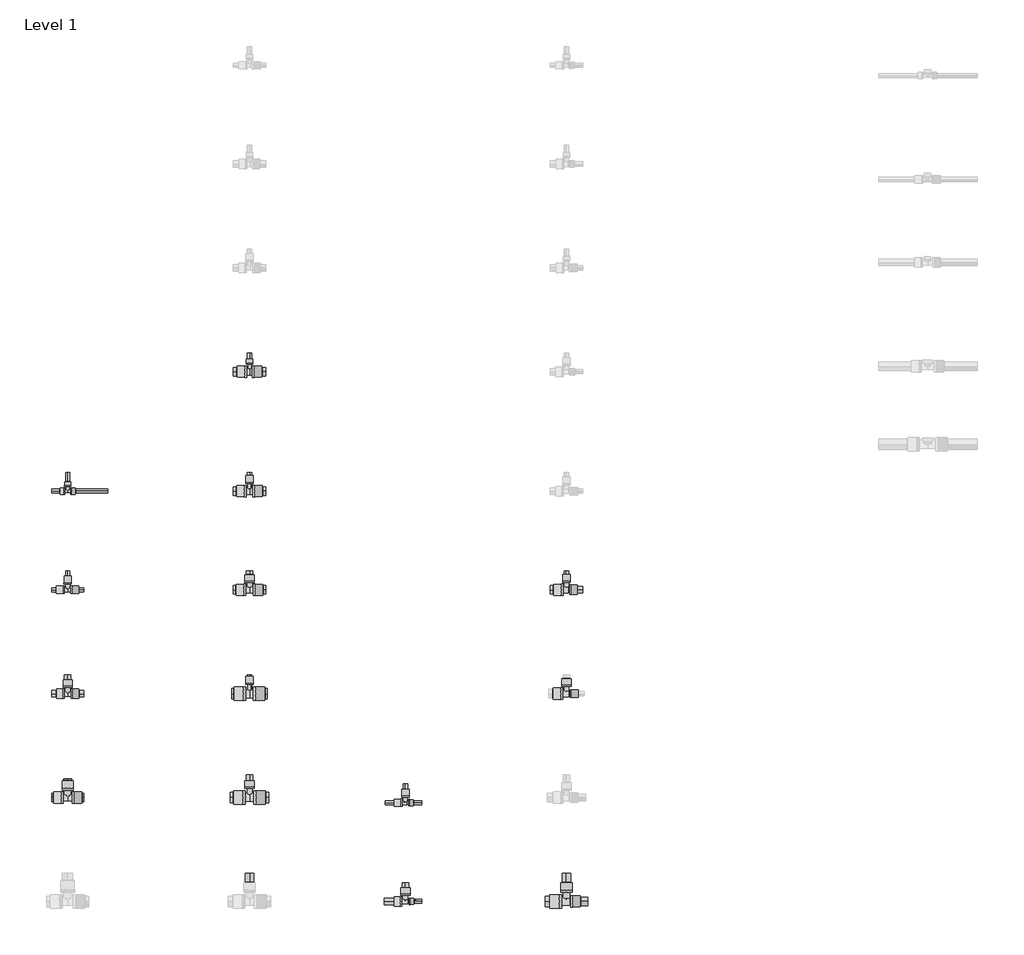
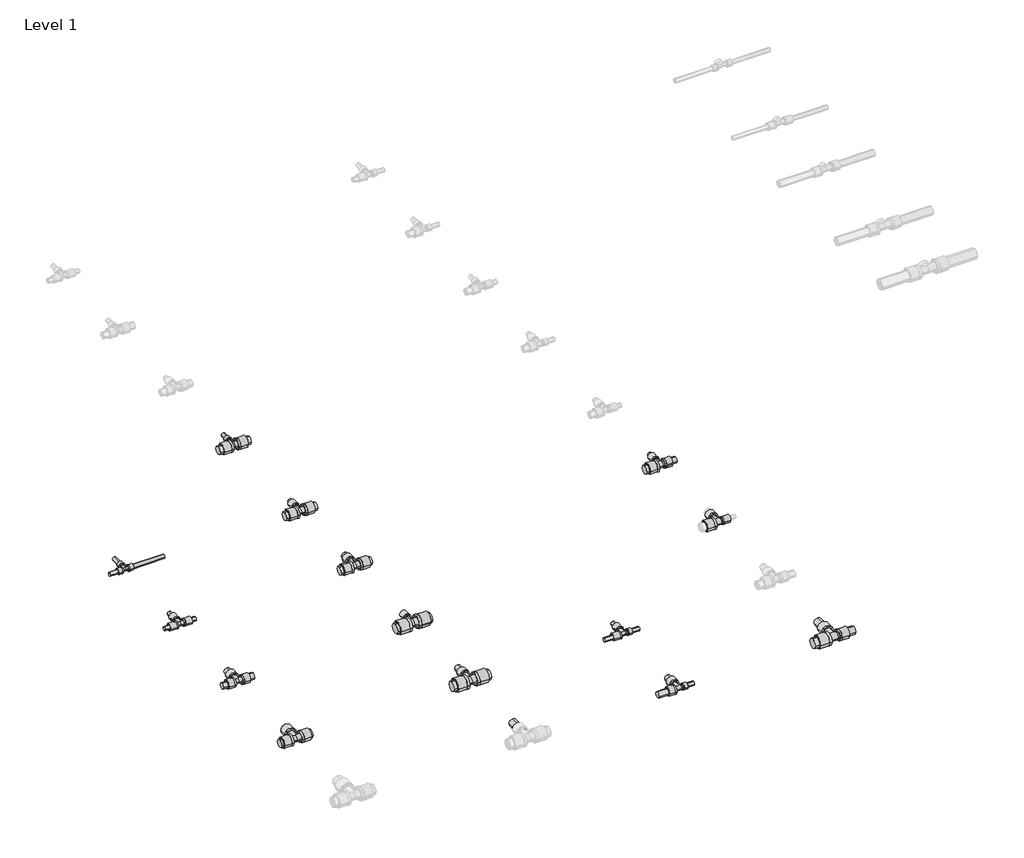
# One storey, part 16 of 78: 40 pipe segments, 14 pipe fittings.
"""IFC4 building model written with IfcOpenShell, lengths in millimetres."""

from ifc_helpers import new_model, si_unit, point, frame, frame_2d, origin, place, context, project, spatial, circle_curve, trimmed, segment, composite_curve, outline, extrude, transform, mapped, element, save
from components import pipe_fitting_d1609a9c, pipe_fitting_bded02bd, pipe_fitting_da5243fc, pipe_fitting_29102c59, pipe_fitting_7435f538, pipe_fitting_b40a3e3c, pipe_fitting_68251213, pipe_fitting_15165f03, pipe_fitting_a094db19, pipe_fitting_19df1a9e, pipe_fitting_16730f07, pipe_fitting_f2600fd0, pipe_fitting_8d489ee2, pipe_fitting_757463f1

model = new_model("IFC4")

# Units and contexts
model_context = context("Model", 3, world=origin())
ifc_project = project(units=[si_unit("LENGTHUNIT", "METRE", prefix="MILLI")], contexts=[model_context])

# Site, building, storey
site = spatial("IfcSite", under=ifc_project)
building = spatial("IfcBuilding", under=site)
storey = spatial("IfcBuildingStorey", under=building, Name="Level 1", Elevation=0.0)

# Pipe fittings
placement = place(None, origin())
pipe_fitting_shape = pipe_fitting_d1609a9c(model_context)
element("IfcPipeFitting", 1, ObjectType="FASTLOC_T-piece_LX : FSL T-Piece LX RO", at=placement, inside=storey, context=model_context, shape_type="MappedRepresentation", body=[
    mapped(pipe_fitting_shape, transform((24226.7498072, -28780.2405791, 0.0), x_axis=(1.0, 0.0, 0.0), y_axis=(0.0, 1.0, 0.0), z_axis=(0.0, 0.0, 1.0))),
])
pipe_fitting_2_shape = pipe_fitting_bded02bd(model_context)
element("IfcPipeFitting", 2, ObjectType="FASTLOC_T-piece_LX : FSL T-Piece LX RO", at=placement, inside=storey, context=model_context, shape_type="MappedRepresentation", body=[
    mapped(pipe_fitting_2_shape, transform((24226.7498072, -29160.2405791, 0.0), x_axis=(1.0, 0.0, 0.0), y_axis=(0.0, 1.0, 0.0), z_axis=(0.0, 0.0, 1.0))),
])
pipe_fitting_3_shape = pipe_fitting_da5243fc(model_context)
element("IfcPipeFitting", 3, ObjectType="FASTLOC_T-piece_LX : FSL T-Piece LX RO", at=placement, inside=storey, context=model_context, shape_type="MappedRepresentation", body=[
    mapped(pipe_fitting_3_shape, transform((24226.7498072, -29560.2405791, 0.0), x_axis=(1.0, 0.0, 0.0), y_axis=(0.0, 1.0, 0.0), z_axis=(0.0, 0.0, 1.0))),
])
pipe_fitting_4_shape = pipe_fitting_29102c59(model_context)
element("IfcPipeFitting", 4, ObjectType="FASTLOC_T-piece_LX : FSL T-Piece LX RO", at=placement, inside=storey, context=model_context, shape_type="MappedRepresentation", body=[
    mapped(pipe_fitting_4_shape, transform((24226.7498072, -29960.2405791, 0.0), x_axis=(1.0, 0.0, 0.0), y_axis=(0.0, 1.0, 0.0), z_axis=(0.0, 0.0, 1.0))),
])
pipe_fitting_5_shape = pipe_fitting_7435f538(model_context)
element("IfcPipeFitting", 5, ObjectType="FASTLOC_T-piece_LX : FSL T-Piece LX RO", at=placement, inside=storey, context=model_context, shape_type="MappedRepresentation", body=[
    mapped(pipe_fitting_5_shape, transform((24926.7498072, -28780.2405791, 0.0), x_axis=(1.0, 0.0, 0.0), y_axis=(0.0, 1.0, 0.0), z_axis=(0.0, 0.0, 1.0))),
])
pipe_fitting_6_shape = pipe_fitting_b40a3e3c(model_context)
element("IfcPipeFitting", 6, ObjectType="FASTLOC_T-piece_LX : FSL T-Piece LX RO", at=placement, inside=storey, context=model_context, shape_type="MappedRepresentation", body=[
    mapped(pipe_fitting_6_shape, transform((24926.7498072, -29160.2405791, 0.0), x_axis=(1.0, 0.0, 0.0), y_axis=(0.0, 1.0, 0.0), z_axis=(0.0, 0.0, 1.0))),
])
pipe_fitting_7_shape = pipe_fitting_68251213(model_context)
element("IfcPipeFitting", 7, ObjectType="FASTLOC_T-piece_LX : FSL T-Piece LX RO", at=placement, inside=storey, context=model_context, shape_type="MappedRepresentation", body=[
    mapped(pipe_fitting_7_shape, transform((24926.7498072, -29560.2405791, 0.0), x_axis=(1.0, 0.0, 0.0), y_axis=(0.0, 1.0, 0.0), z_axis=(0.0, 0.0, 1.0))),
])
pipe_fitting_8_shape = pipe_fitting_15165f03(model_context)
element("IfcPipeFitting", 8, ObjectType="FASTLOC_T-piece_LX : FSL T-Piece LX RO", at=placement, inside=storey, context=model_context, shape_type="MappedRepresentation", body=[
    mapped(pipe_fitting_8_shape, transform((24926.7498072, -29960.2405791, 0.0), x_axis=(1.0, 0.0, 0.0), y_axis=(0.0, 1.0, 0.0), z_axis=(0.0, 0.0, 1.0))),
])
pipe_fitting_9_shape = pipe_fitting_a094db19(model_context)
element("IfcPipeFitting", 9, ObjectType="FASTLOC_T-piece_LX : FSL T-Piece LX RO", at=placement, inside=storey, context=model_context, shape_type="MappedRepresentation", body=[
    mapped(pipe_fitting_9_shape, transform((24926.7498072, -28320.2405791, 0.0), x_axis=(1.0, 0.0, 0.0), y_axis=(0.0, 1.0, 0.0), z_axis=(0.0, 0.0, 1.0))),
])
pipe_fitting_10_shape = pipe_fitting_19df1a9e(model_context)
element("IfcPipeFitting", 10, ObjectType="FASTLOC_T-piece_LX : FSL T-Piece LX RO", at=placement, inside=storey, context=model_context, shape_type="MappedRepresentation", body=[
    mapped(pipe_fitting_10_shape, transform((25526.7498072, -29980.2405791, 0.0), x_axis=(1.0, 0.0, 0.0), y_axis=(0.0, 1.0, 0.0), z_axis=(0.0, 0.0, 1.0))),
])
pipe_fitting_11_shape = pipe_fitting_16730f07(model_context)
element("IfcPipeFitting", 11, ObjectType="FASTLOC_T-piece_LX : FSL T-Piece LX RO", at=placement, inside=storey, context=model_context, shape_type="MappedRepresentation", body=[
    mapped(pipe_fitting_11_shape, transform((25526.7498072, -30360.2405791, 0.0), x_axis=(1.0, 0.0, 0.0), y_axis=(0.0, 1.0, 0.0), z_axis=(0.0, 0.0, 1.0))),
])
pipe_fitting_12_shape = pipe_fitting_f2600fd0(model_context)
element("IfcPipeFitting", 12, ObjectType="FASTLOC_T-piece_LX : FSL T-Piece LX RO", at=placement, inside=storey, context=model_context, shape_type="MappedRepresentation", body=[
    mapped(pipe_fitting_12_shape, transform((26146.7498072, -29160.2405791, 0.0), x_axis=(1.0, 0.0, 0.0), y_axis=(0.0, 1.0, 0.0), z_axis=(0.0, 0.0, 1.0))),
])
pipe_fitting_13_shape = pipe_fitting_8d489ee2(model_context)
element("IfcPipeFitting", 13, ObjectType="FASTLOC_T-piece_LX : FSL T-Piece LX RO", at=placement, inside=storey, context=model_context, shape_type="MappedRepresentation", body=[
    mapped(pipe_fitting_13_shape, transform((26146.7498072, -29560.2405791, 0.0), x_axis=(1.0, 0.0, 0.0), y_axis=(0.0, 1.0, 0.0), z_axis=(0.0, 0.0, 1.0))),
])
pipe_fitting_14_shape = pipe_fitting_757463f1(model_context)
element("IfcPipeFitting", 14, ObjectType="FASTLOC_T-piece_LX : FSL T-Piece LX RO", at=placement, inside=storey, context=model_context, shape_type="MappedRepresentation", body=[
    mapped(pipe_fitting_14_shape, transform((26146.7498072, -30360.2405791, 0.0), x_axis=(1.0, 0.0, 0.0), y_axis=(0.0, 1.0, 0.0), z_axis=(0.0, 0.0, 1.0))),
])

# Pipe segments
element("IfcPipeSegment", 15, ObjectType="FASTLOC LX ML RO bar", at=placement, inside=storey, context=model_context, shape_type="SweptSolid", body=[
    extrude(outline(composite_curve([segment(trimmed(circle_curve(frame_2d((-28780.2405791, 0.0)), 8.0), [point((-28772.2405791, 0.0))], [point((-28780.2405791, -8.0))], False, "CARTESIAN"), True, "CONTINUOUS"), segment(trimmed(circle_curve(frame_2d((-28780.2405791, 0.0)), 8.0), [point((-28780.2405791, -8.0))], [point((-28788.2405791, 0.0))], False, "CARTESIAN"), True, "CONTINUOUS"), segment(trimmed(circle_curve(frame_2d((-28780.2405791, 0.0)), 8.0), [point((-28788.2405791, 0.0))], [point((-28780.2405791, 8.0))], False, "CARTESIAN"), True, "CONTINUOUS"), segment(trimmed(circle_curve(frame_2d((-28780.2405791, 0.0)), 8.0), [point((-28780.2405791, 8.0))], [point((-28772.2405791, 0.0))], False, "CARTESIAN"), True, "CONTINUOUS")], self_intersect=False)), frame((24164.7498072, 0.0, 0.0), z_axis=(1.0, 0.0, 0.0), x_axis=(0.0, 1.0, 0.0)), (0.0, 0.0, 1.0), 47.0),
])
element("IfcPipeSegment", 16, ObjectType="FASTLOC LX ML RO bar", at=placement, inside=storey, context=model_context, shape_type="SweptSolid", body=[
    extrude(outline(composite_curve([segment(trimmed(circle_curve(frame_2d((0.0, 24226.7498072)), 8.0), [point((0.0, 24234.7498072))], [point((8.0, 24226.7498072))], False, "CARTESIAN"), True, "CONTINUOUS"), segment(trimmed(circle_curve(frame_2d((0.0, 24226.7498072)), 8.0), [point((8.0, 24226.7498072))], [point((0.0, 24218.7498072))], False, "CARTESIAN"), True, "CONTINUOUS"), segment(trimmed(circle_curve(frame_2d((0.0, 24226.7498072)), 8.0), [point((0.0, 24218.7498072))], [point((-8.0, 24226.7498072))], False, "CARTESIAN"), True, "CONTINUOUS"), segment(trimmed(circle_curve(frame_2d((0.0, 24226.7498072)), 8.0), [point((-8.0, 24226.7498072))], [point((0.0, 24234.7498072))], False, "CARTESIAN"), True, "CONTINUOUS")], self_intersect=False)), frame((0.0, -28758.1405791, 0.0), z_axis=(0.0, 1.0, 0.0), x_axis=(0.0, 0.0, 1.0)), (0.0, 0.0, 1.0), 50.2),
])
element("IfcPipeSegment", 17, ObjectType="FASTLOC LX ML RO bar", at=placement, inside=storey, context=model_context, shape_type="SweptSolid", body=[
    extrude(outline(composite_curve([segment(trimmed(circle_curve(frame_2d((-29160.2405791, 0.0)), 8.0), [point((-29168.2405791, 0.0))], [point((-29160.2405791, 8.0))], False, "CARTESIAN"), True, "CONTINUOUS"), segment(trimmed(circle_curve(frame_2d((-29160.2405791, 0.0)), 8.0), [point((-29160.2405791, 8.0))], [point((-29152.2405791, 0.0))], False, "CARTESIAN"), True, "CONTINUOUS"), segment(trimmed(circle_curve(frame_2d((-29160.2405791, 0.0)), 8.0), [point((-29152.2405791, 0.0))], [point((-29160.2405791, -8.0))], False, "CARTESIAN"), True, "CONTINUOUS"), segment(trimmed(circle_curve(frame_2d((-29160.2405791, 0.0)), 8.0), [point((-29160.2405791, -8.0))], [point((-29168.2405791, 0.0))], False, "CARTESIAN"), True, "CONTINUOUS")], self_intersect=False)), frame((24243.9498072, 0.0, 0.0), z_axis=(1.0, 0.0, 0.0), x_axis=(0.0, 1.0, 0.0)), (0.0, 0.0, 1.0), 44.8),
])
element("IfcPipeSegment", 18, ObjectType="FASTLOC LX ML RO bar", at=placement, inside=storey, context=model_context, shape_type="SweptSolid", body=[
    extrude(outline(composite_curve([segment(trimmed(circle_curve(frame_2d((-29160.2405791, 0.0)), 8.0), [point((-29152.2405791, 0.0))], [point((-29160.2405791, -8.0))], False, "CARTESIAN"), True, "CONTINUOUS"), segment(trimmed(circle_curve(frame_2d((-29160.2405791, 0.0)), 8.0), [point((-29160.2405791, -8.0))], [point((-29168.2405791, 0.0))], False, "CARTESIAN"), True, "CONTINUOUS"), segment(trimmed(circle_curve(frame_2d((-29160.2405791, 0.0)), 8.0), [point((-29168.2405791, 0.0))], [point((-29160.2405791, 8.0))], False, "CARTESIAN"), True, "CONTINUOUS"), segment(trimmed(circle_curve(frame_2d((-29160.2405791, 0.0)), 8.0), [point((-29160.2405791, 8.0))], [point((-29152.2405791, 0.0))], False, "CARTESIAN"), True, "CONTINUOUS")], self_intersect=False)), frame((24164.7498072, 0.0, 0.0), z_axis=(1.0, 0.0, 0.0), x_axis=(0.0, 1.0, 0.0)), (0.0, 0.0, 1.0), 44.8),
])
element("IfcPipeSegment", 19, ObjectType="FASTLOC LX ML RO bar", at=placement, inside=storey, context=model_context, shape_type="SweptSolid", body=[
    extrude(outline(composite_curve([segment(trimmed(circle_curve(frame_2d((0.0, 24226.7498072)), 8.0), [point((0.0, 24234.7498072))], [point((8.0, 24226.7498072))], False, "CARTESIAN"), True, "CONTINUOUS"), segment(trimmed(circle_curve(frame_2d((0.0, 24226.7498072)), 8.0), [point((8.0, 24226.7498072))], [point((0.0, 24218.7498072))], False, "CARTESIAN"), True, "CONTINUOUS"), segment(trimmed(circle_curve(frame_2d((0.0, 24226.7498072)), 8.0), [point((0.0, 24218.7498072))], [point((-8.0, 24226.7498072))], False, "CARTESIAN"), True, "CONTINUOUS"), segment(trimmed(circle_curve(frame_2d((0.0, 24226.7498072)), 8.0), [point((-8.0, 24226.7498072))], [point((0.0, 24234.7498072))], False, "CARTESIAN"), True, "CONTINUOUS")], self_intersect=False)), frame((0.0, -29133.8405791, 0.0), z_axis=(0.0, 1.0, 0.0), x_axis=(0.0, 0.0, 1.0)), (0.0, 0.0, 1.0), 45.9),
])
element("IfcPipeSegment", 20, ObjectType="FASTLOC LX ML RO bar", at=placement, inside=storey, context=model_context, shape_type="SweptSolid", body=[
    extrude(outline(composite_curve([segment(trimmed(circle_curve(frame_2d((-29560.2405791, 0.0)), 12.5), [point((-29572.7405791, 0.0))], [point((-29560.2405791, 12.5))], False, "CARTESIAN"), True, "CONTINUOUS"), segment(trimmed(circle_curve(frame_2d((-29560.2405791, 0.0)), 12.5), [point((-29560.2405791, 12.5))], [point((-29547.7405791, 0.0))], False, "CARTESIAN"), True, "CONTINUOUS"), segment(trimmed(circle_curve(frame_2d((-29560.2405791, 0.0)), 12.5), [point((-29547.7405791, 0.0))], [point((-29560.2405791, -12.5))], False, "CARTESIAN"), True, "CONTINUOUS"), segment(trimmed(circle_curve(frame_2d((-29560.2405791, 0.0)), 12.5), [point((-29560.2405791, -12.5))], [point((-29572.7405791, 0.0))], False, "CARTESIAN"), True, "CONTINUOUS")], self_intersect=False)), frame((24246.6498072, 0.0, 0.0), z_axis=(1.0, 0.0, 0.0), x_axis=(0.0, 1.0, 0.0)), (0.0, 0.0, 1.0), 42.1),
])
element("IfcPipeSegment", 21, ObjectType="FASTLOC LX ML RO bar", at=placement, inside=storey, context=model_context, shape_type="SweptSolid", body=[
    extrude(outline(composite_curve([segment(trimmed(circle_curve(frame_2d((-29560.2405791, 0.0)), 12.5), [point((-29547.7405791, 0.0))], [point((-29560.2405791, -12.5))], False, "CARTESIAN"), True, "CONTINUOUS"), segment(trimmed(circle_curve(frame_2d((-29560.2405791, 0.0)), 12.5), [point((-29560.2405791, -12.5))], [point((-29572.7405791, 0.0))], False, "CARTESIAN"), True, "CONTINUOUS"), segment(trimmed(circle_curve(frame_2d((-29560.2405791, 0.0)), 12.5), [point((-29572.7405791, 0.0))], [point((-29560.2405791, 12.5))], False, "CARTESIAN"), True, "CONTINUOUS"), segment(trimmed(circle_curve(frame_2d((-29560.2405791, 0.0)), 12.5), [point((-29560.2405791, 12.5))], [point((-29547.7405791, 0.0))], False, "CARTESIAN"), True, "CONTINUOUS")], self_intersect=False)), frame((24164.7498072, 0.0, 0.0), z_axis=(1.0, 0.0, 0.0), x_axis=(0.0, 1.0, 0.0)), (0.0, 0.0, 1.0), 42.1),
])
element("IfcPipeSegment", 22, ObjectType="FASTLOC LX ML RO bar", at=placement, inside=storey, context=model_context, shape_type="SweptSolid", body=[
    extrude(outline(composite_curve([segment(trimmed(circle_curve(frame_2d((0.0, 24226.7498072)), 12.5), [point((0.0, 24239.2498072))], [point((12.5, 24226.7498072))], False, "CARTESIAN"), True, "CONTINUOUS"), segment(trimmed(circle_curve(frame_2d((0.0, 24226.7498072)), 12.5), [point((12.5, 24226.7498072))], [point((0.0, 24214.2498072))], False, "CARTESIAN"), True, "CONTINUOUS"), segment(trimmed(circle_curve(frame_2d((0.0, 24226.7498072)), 12.5), [point((0.0, 24214.2498072))], [point((-12.5, 24226.7498072))], False, "CARTESIAN"), True, "CONTINUOUS"), segment(trimmed(circle_curve(frame_2d((0.0, 24226.7498072)), 12.5), [point((-12.5, 24226.7498072))], [point((0.0, 24239.2498072))], False, "CARTESIAN"), True, "CONTINUOUS")], self_intersect=False)), frame((0.0, -29530.7405791, 0.0), z_axis=(0.0, 1.0, 0.0), x_axis=(0.0, 0.0, 1.0)), (0.0, 0.0, 1.0), 42.8),
])
element("IfcPipeSegment", 23, ObjectType="FASTLOC LX ML RO bar", at=placement, inside=storey, context=model_context, shape_type="SweptSolid", body=[
    extrude(outline(composite_curve([segment(trimmed(circle_curve(frame_2d((-29960.2405791, 0.0)), 16.0), [point((-29976.2405791, 0.0))], [point((-29960.2405791, 16.0))], False, "CARTESIAN"), True, "CONTINUOUS"), segment(trimmed(circle_curve(frame_2d((-29960.2405791, 0.0)), 16.0), [point((-29960.2405791, 16.0))], [point((-29944.2405791, 0.0))], False, "CARTESIAN"), True, "CONTINUOUS"), segment(trimmed(circle_curve(frame_2d((-29960.2405791, 0.0)), 16.0), [point((-29944.2405791, 0.0))], [point((-29960.2405791, -16.0))], False, "CARTESIAN"), True, "CONTINUOUS"), segment(trimmed(circle_curve(frame_2d((-29960.2405791, 0.0)), 16.0), [point((-29960.2405791, -16.0))], [point((-29976.2405791, 0.0))], False, "CARTESIAN"), True, "CONTINUOUS")], self_intersect=False)), frame((24251.5498072, 0.0, 0.0), z_axis=(1.0, 0.0, 0.0), x_axis=(0.0, 1.0, 0.0)), (0.0, 0.0, 1.0), 37.2),
])
element("IfcPipeSegment", 24, ObjectType="FASTLOC LX ML RO bar", at=placement, inside=storey, context=model_context, shape_type="SweptSolid", body=[
    extrude(outline(composite_curve([segment(trimmed(circle_curve(frame_2d((-29960.2405791, 0.0)), 16.0), [point((-29944.2405791, 0.0))], [point((-29960.2405791, -16.0))], False, "CARTESIAN"), True, "CONTINUOUS"), segment(trimmed(circle_curve(frame_2d((-29960.2405791, 0.0)), 16.0), [point((-29960.2405791, -16.0))], [point((-29976.2405791, 0.0))], False, "CARTESIAN"), True, "CONTINUOUS"), segment(trimmed(circle_curve(frame_2d((-29960.2405791, 0.0)), 16.0), [point((-29976.2405791, 0.0))], [point((-29960.2405791, 16.0))], False, "CARTESIAN"), True, "CONTINUOUS"), segment(trimmed(circle_curve(frame_2d((-29960.2405791, 0.0)), 16.0), [point((-29960.2405791, 16.0))], [point((-29944.2405791, 0.0))], False, "CARTESIAN"), True, "CONTINUOUS")], self_intersect=False)), frame((24164.7498072, 0.0, 0.0), z_axis=(1.0, 0.0, 0.0), x_axis=(0.0, 1.0, 0.0)), (0.0, 0.0, 1.0), 37.2),
])
element("IfcPipeSegment", 25, ObjectType="FASTLOC LX ML RO bar", at=placement, inside=storey, context=model_context, shape_type="SweptSolid", body=[
    extrude(outline(composite_curve([segment(trimmed(circle_curve(frame_2d((0.0, 24226.7498072)), 16.0), [point((0.0, 24242.7498072))], [point((16.0, 24226.7498072))], False, "CARTESIAN"), True, "CONTINUOUS"), segment(trimmed(circle_curve(frame_2d((0.0, 24226.7498072)), 16.0), [point((16.0, 24226.7498072))], [point((0.0, 24210.7498072))], False, "CARTESIAN"), True, "CONTINUOUS"), segment(trimmed(circle_curve(frame_2d((0.0, 24226.7498072)), 16.0), [point((0.0, 24210.7498072))], [point((-16.0, 24226.7498072))], False, "CARTESIAN"), True, "CONTINUOUS"), segment(trimmed(circle_curve(frame_2d((0.0, 24226.7498072)), 16.0), [point((-16.0, 24226.7498072))], [point((0.0, 24242.7498072))], False, "CARTESIAN"), True, "CONTINUOUS")], self_intersect=False)), frame((0.0, -29924.1405791, 0.0), z_axis=(0.0, 1.0, 0.0), x_axis=(0.0, 0.0, 1.0)), (0.0, 0.0, 1.0), 36.2),
])
element("IfcPipeSegment", 26, ObjectType="FASTLOC LX ML RO bar", at=placement, inside=storey, context=model_context, shape_type="SweptSolid", body=[
    extrude(outline(composite_curve([segment(trimmed(circle_curve(frame_2d((-28780.2405791, 0.0)), 16.0), [point((-28796.2405791, 0.0))], [point((-28780.2405791, 16.0))], False, "CARTESIAN"), True, "CONTINUOUS"), segment(trimmed(circle_curve(frame_2d((-28780.2405791, 0.0)), 16.0), [point((-28780.2405791, 16.0))], [point((-28764.2405791, 0.0))], False, "CARTESIAN"), True, "CONTINUOUS"), segment(trimmed(circle_curve(frame_2d((-28780.2405791, 0.0)), 16.0), [point((-28764.2405791, 0.0))], [point((-28780.2405791, -16.0))], False, "CARTESIAN"), True, "CONTINUOUS"), segment(trimmed(circle_curve(frame_2d((-28780.2405791, 0.0)), 16.0), [point((-28780.2405791, -16.0))], [point((-28796.2405791, 0.0))], False, "CARTESIAN"), True, "CONTINUOUS")], self_intersect=False)), frame((24946.9498072, 0.0, 0.0), z_axis=(1.0, 0.0, 0.0), x_axis=(0.0, 1.0, 0.0)), (0.0, 0.0, 1.0), 41.8),
])
element("IfcPipeSegment", 27, ObjectType="FASTLOC LX ML RO bar", at=placement, inside=storey, context=model_context, shape_type="SweptSolid", body=[
    extrude(outline(composite_curve([segment(trimmed(circle_curve(frame_2d((-28780.2405791, 0.0)), 16.0), [point((-28764.2405791, 0.0))], [point((-28780.2405791, -16.0))], False, "CARTESIAN"), True, "CONTINUOUS"), segment(trimmed(circle_curve(frame_2d((-28780.2405791, 0.0)), 16.0), [point((-28780.2405791, -16.0))], [point((-28796.2405791, 0.0))], False, "CARTESIAN"), True, "CONTINUOUS"), segment(trimmed(circle_curve(frame_2d((-28780.2405791, 0.0)), 16.0), [point((-28796.2405791, 0.0))], [point((-28780.2405791, 16.0))], False, "CARTESIAN"), True, "CONTINUOUS"), segment(trimmed(circle_curve(frame_2d((-28780.2405791, 0.0)), 16.0), [point((-28780.2405791, 16.0))], [point((-28764.2405791, 0.0))], False, "CARTESIAN"), True, "CONTINUOUS")], self_intersect=False)), frame((24864.7498072, 0.0, 0.0), z_axis=(1.0, 0.0, 0.0), x_axis=(0.0, 1.0, 0.0)), (0.0, 0.0, 1.0), 41.8),
])
element("IfcPipeSegment", 28, ObjectType="FASTLOC LX ML RO bar", at=placement, inside=storey, context=model_context, shape_type="SweptSolid", body=[
    extrude(outline(composite_curve([segment(trimmed(circle_curve(frame_2d((0.0, 24926.7498072)), 8.0), [point((0.0, 24934.7498072))], [point((8.0, 24926.7498072))], False, "CARTESIAN"), True, "CONTINUOUS"), segment(trimmed(circle_curve(frame_2d((0.0, 24926.7498072)), 8.0), [point((8.0, 24926.7498072))], [point((0.0, 24918.7498072))], False, "CARTESIAN"), True, "CONTINUOUS"), segment(trimmed(circle_curve(frame_2d((0.0, 24926.7498072)), 8.0), [point((0.0, 24918.7498072))], [point((-8.0, 24926.7498072))], False, "CARTESIAN"), True, "CONTINUOUS"), segment(trimmed(circle_curve(frame_2d((0.0, 24926.7498072)), 8.0), [point((-8.0, 24926.7498072))], [point((0.0, 24934.7498072))], False, "CARTESIAN"), True, "CONTINUOUS")], self_intersect=False)), frame((0.0, -28746.2405791, 0.0), z_axis=(0.0, 1.0, 0.0), x_axis=(0.0, 0.0, 1.0)), (0.0, 0.0, 1.0), 38.3),
])
element("IfcPipeSegment", 29, ObjectType="FASTLOC LX ML RO bar", at=placement, inside=storey, context=model_context, shape_type="SweptSolid", body=[
    extrude(outline(composite_curve([segment(trimmed(circle_curve(frame_2d((-29160.2405791, 0.0)), 16.0), [point((-29176.2405791, 0.0))], [point((-29160.2405791, 16.0))], False, "CARTESIAN"), True, "CONTINUOUS"), segment(trimmed(circle_curve(frame_2d((-29160.2405791, 0.0)), 16.0), [point((-29160.2405791, 16.0))], [point((-29144.2405791, 0.0))], False, "CARTESIAN"), True, "CONTINUOUS"), segment(trimmed(circle_curve(frame_2d((-29160.2405791, 0.0)), 16.0), [point((-29144.2405791, 0.0))], [point((-29160.2405791, -16.0))], False, "CARTESIAN"), True, "CONTINUOUS"), segment(trimmed(circle_curve(frame_2d((-29160.2405791, 0.0)), 16.0), [point((-29160.2405791, -16.0))], [point((-29176.2405791, 0.0))], False, "CARTESIAN"), True, "CONTINUOUS")], self_intersect=False)), frame((24948.7498072, 0.0, 0.0), z_axis=(1.0, 0.0, 0.0), x_axis=(0.0, 1.0, 0.0)), (0.0, 0.0, 1.0), 40.0),
])
element("IfcPipeSegment", 30, ObjectType="FASTLOC LX ML RO bar", at=placement, inside=storey, context=model_context, shape_type="SweptSolid", body=[
    extrude(outline(composite_curve([segment(trimmed(circle_curve(frame_2d((-29160.2405791, 0.0)), 16.0), [point((-29144.2405791, 0.0))], [point((-29160.2405791, -16.0))], False, "CARTESIAN"), True, "CONTINUOUS"), segment(trimmed(circle_curve(frame_2d((-29160.2405791, 0.0)), 16.0), [point((-29160.2405791, -16.0))], [point((-29176.2405791, 0.0))], False, "CARTESIAN"), True, "CONTINUOUS"), segment(trimmed(circle_curve(frame_2d((-29160.2405791, 0.0)), 16.0), [point((-29176.2405791, 0.0))], [point((-29160.2405791, 16.0))], False, "CARTESIAN"), True, "CONTINUOUS"), segment(trimmed(circle_curve(frame_2d((-29160.2405791, 0.0)), 16.0), [point((-29160.2405791, 16.0))], [point((-29144.2405791, 0.0))], False, "CARTESIAN"), True, "CONTINUOUS")], self_intersect=False)), frame((24864.7498072, 0.0, 0.0), z_axis=(1.0, 0.0, 0.0), x_axis=(0.0, 1.0, 0.0)), (0.0, 0.0, 1.0), 40.0),
])
element("IfcPipeSegment", 31, ObjectType="FASTLOC LX ML RO bar", at=placement, inside=storey, context=model_context, shape_type="SweptSolid", body=[
    extrude(outline(composite_curve([segment(trimmed(circle_curve(frame_2d((0.0, 24926.7498072)), 12.5), [point((0.0, 24939.2498072))], [point((12.5, 24926.7498072))], False, "CARTESIAN"), True, "CONTINUOUS"), segment(trimmed(circle_curve(frame_2d((0.0, 24926.7498072)), 12.5), [point((12.5, 24926.7498072))], [point((0.0, 24914.2498072))], False, "CARTESIAN"), True, "CONTINUOUS"), segment(trimmed(circle_curve(frame_2d((0.0, 24926.7498072)), 12.5), [point((0.0, 24914.2498072))], [point((-12.5, 24926.7498072))], False, "CARTESIAN"), True, "CONTINUOUS"), segment(trimmed(circle_curve(frame_2d((0.0, 24926.7498072)), 12.5), [point((-12.5, 24926.7498072))], [point((0.0, 24939.2498072))], False, "CARTESIAN"), True, "CONTINUOUS")], self_intersect=False)), frame((0.0, -29125.8405791, 0.0), z_axis=(0.0, 1.0, 0.0), x_axis=(0.0, 0.0, 1.0)), (0.0, 0.0, 1.0), 37.9),
])
element("IfcPipeSegment", 32, ObjectType="FASTLOC LX ML RO bar", at=placement, inside=storey, context=model_context, shape_type="SweptSolid", body=[
    extrude(outline(composite_curve([segment(trimmed(circle_curve(frame_2d((-29560.2405791, 0.0)), 20.0), [point((-29580.2405791, 0.0))], [point((-29560.2405791, 20.0))], False, "CARTESIAN"), True, "CONTINUOUS"), segment(trimmed(circle_curve(frame_2d((-29560.2405791, 0.0)), 20.0), [point((-29560.2405791, 20.0))], [point((-29540.2405791, 0.0))], False, "CARTESIAN"), True, "CONTINUOUS"), segment(trimmed(circle_curve(frame_2d((-29560.2405791, 0.0)), 20.0), [point((-29540.2405791, 0.0))], [point((-29560.2405791, -20.0))], False, "CARTESIAN"), True, "CONTINUOUS"), segment(trimmed(circle_curve(frame_2d((-29560.2405791, 0.0)), 20.0), [point((-29560.2405791, -20.0))], [point((-29580.2405791, 0.0))], False, "CARTESIAN"), True, "CONTINUOUS")], self_intersect=False)), frame((24950.7498072, 0.0, 0.0), z_axis=(1.0, 0.0, 0.0), x_axis=(0.0, 1.0, 0.0)), (0.0, 0.0, 1.0), 45.0),
])
element("IfcPipeSegment", 33, ObjectType="FASTLOC LX ML RO bar", at=placement, inside=storey, context=model_context, shape_type="SweptSolid", body=[
    extrude(outline(composite_curve([segment(trimmed(circle_curve(frame_2d((-29560.2405791, 0.0)), 20.0), [point((-29540.2405791, 0.0))], [point((-29560.2405791, -20.0))], False, "CARTESIAN"), True, "CONTINUOUS"), segment(trimmed(circle_curve(frame_2d((-29560.2405791, 0.0)), 20.0), [point((-29560.2405791, -20.0))], [point((-29580.2405791, 0.0))], False, "CARTESIAN"), True, "CONTINUOUS"), segment(trimmed(circle_curve(frame_2d((-29560.2405791, 0.0)), 20.0), [point((-29580.2405791, 0.0))], [point((-29560.2405791, 20.0))], False, "CARTESIAN"), True, "CONTINUOUS"), segment(trimmed(circle_curve(frame_2d((-29560.2405791, 0.0)), 20.0), [point((-29560.2405791, 20.0))], [point((-29540.2405791, 0.0))], False, "CARTESIAN"), True, "CONTINUOUS")], self_intersect=False)), frame((24857.7498072, 0.0, 0.0), z_axis=(1.0, 0.0, 0.0), x_axis=(0.0, 1.0, 0.0)), (0.0, 0.0, 1.0), 45.0),
])
element("IfcPipeSegment", 34, ObjectType="FASTLOC LX ML RO bar", at=placement, inside=storey, context=model_context, shape_type="SweptSolid", body=[
    extrude(outline(composite_curve([segment(trimmed(circle_curve(frame_2d((0.0, 24926.7498072)), 8.0), [point((0.0, 24934.7498072))], [point((8.0, 24926.7498072))], False, "CARTESIAN"), True, "CONTINUOUS"), segment(trimmed(circle_curve(frame_2d((0.0, 24926.7498072)), 8.0), [point((8.0, 24926.7498072))], [point((0.0, 24918.7498072))], False, "CARTESIAN"), True, "CONTINUOUS"), segment(trimmed(circle_curve(frame_2d((0.0, 24926.7498072)), 8.0), [point((0.0, 24918.7498072))], [point((-8.0, 24926.7498072))], False, "CARTESIAN"), True, "CONTINUOUS"), segment(trimmed(circle_curve(frame_2d((0.0, 24926.7498072)), 8.0), [point((-8.0, 24926.7498072))], [point((0.0, 24934.7498072))], False, "CARTESIAN"), True, "CONTINUOUS")], self_intersect=False)), frame((0.0, -29519.7405791, 0.0), z_axis=(0.0, 1.0, 0.0), x_axis=(0.0, 0.0, 1.0)), (0.0, 0.0, 1.0), 31.8),
])
element("IfcPipeSegment", 35, ObjectType="FASTLOC LX ML RO bar", at=placement, inside=storey, context=model_context, shape_type="SweptSolid", body=[
    extrude(outline(composite_curve([segment(trimmed(circle_curve(frame_2d((-29960.2405791, 0.0)), 20.0), [point((-29980.2405791, 0.0))], [point((-29960.2405791, 20.0))], False, "CARTESIAN"), True, "CONTINUOUS"), segment(trimmed(circle_curve(frame_2d((-29960.2405791, 0.0)), 20.0), [point((-29960.2405791, 20.0))], [point((-29940.2405791, 0.0))], False, "CARTESIAN"), True, "CONTINUOUS"), segment(trimmed(circle_curve(frame_2d((-29960.2405791, 0.0)), 20.0), [point((-29940.2405791, 0.0))], [point((-29960.2405791, -20.0))], False, "CARTESIAN"), True, "CONTINUOUS"), segment(trimmed(circle_curve(frame_2d((-29960.2405791, 0.0)), 20.0), [point((-29960.2405791, -20.0))], [point((-29980.2405791, 0.0))], False, "CARTESIAN"), True, "CONTINUOUS")], self_intersect=False)), frame((24952.5498072, 0.0, 0.0), z_axis=(1.0, 0.0, 0.0), x_axis=(0.0, 1.0, 0.0)), (0.0, 0.0, 1.0), 47.8),
])
element("IfcPipeSegment", 36, ObjectType="FASTLOC LX ML RO bar", at=placement, inside=storey, context=model_context, shape_type="SweptSolid", body=[
    extrude(outline(composite_curve([segment(trimmed(circle_curve(frame_2d((-29960.2405791, 0.0)), 20.0), [point((-29940.2405791, 0.0))], [point((-29960.2405791, -20.0))], False, "CARTESIAN"), True, "CONTINUOUS"), segment(trimmed(circle_curve(frame_2d((-29960.2405791, 0.0)), 20.0), [point((-29960.2405791, -20.0))], [point((-29980.2405791, 0.0))], False, "CARTESIAN"), True, "CONTINUOUS"), segment(trimmed(circle_curve(frame_2d((-29960.2405791, 0.0)), 20.0), [point((-29980.2405791, 0.0))], [point((-29960.2405791, 20.0))], False, "CARTESIAN"), True, "CONTINUOUS"), segment(trimmed(circle_curve(frame_2d((-29960.2405791, 0.0)), 20.0), [point((-29960.2405791, 20.0))], [point((-29940.2405791, 0.0))], False, "CARTESIAN"), True, "CONTINUOUS")], self_intersect=False)), frame((24853.1498072, 0.0, 0.0), z_axis=(1.0, 0.0, 0.0), x_axis=(0.0, 1.0, 0.0)), (0.0, 0.0, 1.0), 47.8),
])
element("IfcPipeSegment", 37, ObjectType="FASTLOC LX ML RO bar", at=placement, inside=storey, context=model_context, shape_type="SweptSolid", body=[
    extrude(outline(composite_curve([segment(trimmed(circle_curve(frame_2d((0.0, 24926.7498072)), 12.5), [point((0.0, 24939.2498072))], [point((12.5, 24926.7498072))], False, "CARTESIAN"), True, "CONTINUOUS"), segment(trimmed(circle_curve(frame_2d((0.0, 24926.7498072)), 12.5), [point((12.5, 24926.7498072))], [point((0.0, 24914.2498072))], False, "CARTESIAN"), True, "CONTINUOUS"), segment(trimmed(circle_curve(frame_2d((0.0, 24926.7498072)), 12.5), [point((0.0, 24914.2498072))], [point((-12.5, 24926.7498072))], False, "CARTESIAN"), True, "CONTINUOUS"), segment(trimmed(circle_curve(frame_2d((0.0, 24926.7498072)), 12.5), [point((-12.5, 24926.7498072))], [point((0.0, 24939.2498072))], False, "CARTESIAN"), True, "CONTINUOUS")], self_intersect=False)), frame((0.0, -29919.2405791, 0.0), z_axis=(0.0, 1.0, 0.0), x_axis=(0.0, 0.0, 1.0)), (0.0, 0.0, 1.0), 46.8),
])
element("IfcPipeSegment", 38, ObjectType="FASTLOC LX ML RO bar", at=placement, inside=storey, context=model_context, shape_type="SweptSolid", body=[
    extrude(outline(composite_curve([segment(trimmed(circle_curve(frame_2d((0.0, 24926.7498072)), 16.0), [point((0.0, 24942.7498072))], [point((16.0, 24926.7498072))], False, "CARTESIAN"), True, "CONTINUOUS"), segment(trimmed(circle_curve(frame_2d((0.0, 24926.7498072)), 16.0), [point((16.0, 24926.7498072))], [point((0.0, 24910.7498072))], False, "CARTESIAN"), True, "CONTINUOUS"), segment(trimmed(circle_curve(frame_2d((0.0, 24926.7498072)), 16.0), [point((0.0, 24910.7498072))], [point((-16.0, 24926.7498072))], False, "CARTESIAN"), True, "CONTINUOUS"), segment(trimmed(circle_curve(frame_2d((0.0, 24926.7498072)), 16.0), [point((-16.0, 24926.7498072))], [point((0.0, 24942.7498072))], False, "CARTESIAN"), True, "CONTINUOUS")], self_intersect=False)), frame((0.0, -30317.4405791, 0.0), z_axis=(0.0, 1.0, 0.0), x_axis=(0.0, 0.0, 1.0)), (0.0, 0.0, 1.0), 64.8),
])
element("IfcPipeSegment", 39, ObjectType="FASTLOC LX ML RO bar", at=placement, inside=storey, context=model_context, shape_type="SweptSolid", body=[
    extrude(outline(composite_curve([segment(trimmed(circle_curve(frame_2d((-28320.2405791, 0.0)), 16.0), [point((-28336.2405791, 0.0))], [point((-28320.2405791, 16.0))], False, "CARTESIAN"), True, "CONTINUOUS"), segment(trimmed(circle_curve(frame_2d((-28320.2405791, 0.0)), 16.0), [point((-28320.2405791, 16.0))], [point((-28304.2405791, 0.0))], False, "CARTESIAN"), True, "CONTINUOUS"), segment(trimmed(circle_curve(frame_2d((-28320.2405791, 0.0)), 16.0), [point((-28304.2405791, 0.0))], [point((-28320.2405791, -16.0))], False, "CARTESIAN"), True, "CONTINUOUS"), segment(trimmed(circle_curve(frame_2d((-28320.2405791, 0.0)), 16.0), [point((-28320.2405791, -16.0))], [point((-28336.2405791, 0.0))], False, "CARTESIAN"), True, "CONTINUOUS")], self_intersect=False)), frame((24945.0498072, 0.0, 0.0), z_axis=(1.0, 0.0, 0.0), x_axis=(0.0, 1.0, 0.0)), (0.0, 0.0, 1.0), 43.7),
])
element("IfcPipeSegment", 40, ObjectType="FASTLOC LX ML RO bar", at=placement, inside=storey, context=model_context, shape_type="SweptSolid", body=[
    extrude(outline(composite_curve([segment(trimmed(circle_curve(frame_2d((-28320.2405791, 0.0)), 16.0), [point((-28304.2405791, 0.0))], [point((-28320.2405791, -16.0))], False, "CARTESIAN"), True, "CONTINUOUS"), segment(trimmed(circle_curve(frame_2d((-28320.2405791, 0.0)), 16.0), [point((-28320.2405791, -16.0))], [point((-28336.2405791, 0.0))], False, "CARTESIAN"), True, "CONTINUOUS"), segment(trimmed(circle_curve(frame_2d((-28320.2405791, 0.0)), 16.0), [point((-28336.2405791, 0.0))], [point((-28320.2405791, 16.0))], False, "CARTESIAN"), True, "CONTINUOUS"), segment(trimmed(circle_curve(frame_2d((-28320.2405791, 0.0)), 16.0), [point((-28320.2405791, 16.0))], [point((-28304.2405791, 0.0))], False, "CARTESIAN"), True, "CONTINUOUS")], self_intersect=False)), frame((24864.7498072, 0.0, 0.0), z_axis=(1.0, 0.0, 0.0), x_axis=(0.0, 1.0, 0.0)), (0.0, 0.0, 1.0), 43.7),
])
element("IfcPipeSegment", 41, ObjectType="FASTLOC LX ML RO bar", at=placement, inside=storey, context=model_context, shape_type="SweptSolid", body=[
    extrude(outline(composite_curve([segment(trimmed(circle_curve(frame_2d((0.0, 24926.7498072)), 8.0), [point((0.0, 24934.7498072))], [point((8.0, 24926.7498072))], False, "CARTESIAN"), True, "CONTINUOUS"), segment(trimmed(circle_curve(frame_2d((0.0, 24926.7498072)), 8.0), [point((8.0, 24926.7498072))], [point((0.0, 24918.7498072))], False, "CARTESIAN"), True, "CONTINUOUS"), segment(trimmed(circle_curve(frame_2d((0.0, 24926.7498072)), 8.0), [point((0.0, 24918.7498072))], [point((-8.0, 24926.7498072))], False, "CARTESIAN"), True, "CONTINUOUS"), segment(trimmed(circle_curve(frame_2d((0.0, 24926.7498072)), 8.0), [point((-8.0, 24926.7498072))], [point((0.0, 24934.7498072))], False, "CARTESIAN"), True, "CONTINUOUS")], self_intersect=False)), frame((0.0, -28286.3405791, 0.0), z_axis=(0.0, 1.0, 0.0), x_axis=(0.0, 0.0, 1.0)), (0.0, 0.0, 1.0), 38.4),
])
element("IfcPipeSegment", 42, ObjectType="FASTLOC LX ML RO bar", at=placement, inside=storey, context=model_context, shape_type="SweptSolid", body=[
    extrude(outline(composite_curve([segment(trimmed(circle_curve(frame_2d((-29980.2405791, 0.0)), 8.0), [point((-29988.2405791, 0.0))], [point((-29980.2405791, 8.0))], False, "CARTESIAN"), True, "CONTINUOUS"), segment(trimmed(circle_curve(frame_2d((-29980.2405791, 0.0)), 8.0), [point((-29980.2405791, 8.0))], [point((-29972.2405791, 0.0))], False, "CARTESIAN"), True, "CONTINUOUS"), segment(trimmed(circle_curve(frame_2d((-29980.2405791, 0.0)), 8.0), [point((-29972.2405791, 0.0))], [point((-29980.2405791, -8.0))], False, "CARTESIAN"), True, "CONTINUOUS"), segment(trimmed(circle_curve(frame_2d((-29980.2405791, 0.0)), 8.0), [point((-29980.2405791, -8.0))], [point((-29988.2405791, 0.0))], False, "CARTESIAN"), True, "CONTINUOUS")], self_intersect=False)), frame((25543.7498072, 0.0, 0.0), z_axis=(1.0, 0.0, 0.0), x_axis=(0.0, 1.0, 0.0)), (0.0, 0.0, 1.0), 45.0),
])
element("IfcPipeSegment", 43, ObjectType="FASTLOC LX ML RO bar", at=placement, inside=storey, context=model_context, shape_type="SweptSolid", body=[
    extrude(outline(composite_curve([segment(trimmed(circle_curve(frame_2d((-29980.2405791, 0.0)), 8.0), [point((-29972.2405791, 0.0))], [point((-29980.2405791, -8.0))], False, "CARTESIAN"), True, "CONTINUOUS"), segment(trimmed(circle_curve(frame_2d((-29980.2405791, 0.0)), 8.0), [point((-29980.2405791, -8.0))], [point((-29988.2405791, 0.0))], False, "CARTESIAN"), True, "CONTINUOUS"), segment(trimmed(circle_curve(frame_2d((-29980.2405791, 0.0)), 8.0), [point((-29988.2405791, 0.0))], [point((-29980.2405791, 8.0))], False, "CARTESIAN"), True, "CONTINUOUS"), segment(trimmed(circle_curve(frame_2d((-29980.2405791, 0.0)), 8.0), [point((-29980.2405791, 8.0))], [point((-29972.2405791, 0.0))], False, "CARTESIAN"), True, "CONTINUOUS")], self_intersect=False)), frame((25449.3498072, 0.0, 0.0), z_axis=(1.0, 0.0, 0.0), x_axis=(0.0, 1.0, 0.0)), (0.0, 0.0, 1.0), 60.0),
])
element("IfcPipeSegment", 44, ObjectType="FASTLOC LX ML RO bar", at=placement, inside=storey, context=model_context, shape_type="SweptSolid", body=[
    extrude(outline(composite_curve([segment(trimmed(circle_curve(frame_2d((0.0, 25526.7498072)), 8.0), [point((0.0, 25534.7498072))], [point((8.0, 25526.7498072))], False, "CARTESIAN"), True, "CONTINUOUS"), segment(trimmed(circle_curve(frame_2d((0.0, 25526.7498072)), 8.0), [point((8.0, 25526.7498072))], [point((0.0, 25518.7498072))], False, "CARTESIAN"), True, "CONTINUOUS"), segment(trimmed(circle_curve(frame_2d((0.0, 25526.7498072)), 8.0), [point((0.0, 25518.7498072))], [point((-8.0, 25526.7498072))], False, "CARTESIAN"), True, "CONTINUOUS"), segment(trimmed(circle_curve(frame_2d((0.0, 25526.7498072)), 8.0), [point((-8.0, 25526.7498072))], [point((0.0, 25534.7498072))], False, "CARTESIAN"), True, "CONTINUOUS")], self_intersect=False)), frame((0.0, -29953.8405791, 0.0), z_axis=(0.0, 1.0, 0.0), x_axis=(0.0, 0.0, 1.0)), (0.0, 0.0, 1.0), 45.9),
])
element("IfcPipeSegment", 45, ObjectType="FASTLOC LX ML RO bar", at=placement, inside=storey, context=model_context, shape_type="SweptSolid", body=[
    extrude(outline(composite_curve([segment(trimmed(circle_curve(frame_2d((-30360.2405791, 0.0)), 8.0), [point((-30368.2405791, 0.0))], [point((-30360.2405791, 8.0))], False, "CARTESIAN"), True, "CONTINUOUS"), segment(trimmed(circle_curve(frame_2d((-30360.2405791, 0.0)), 8.0), [point((-30360.2405791, 8.0))], [point((-30352.2405791, 0.0))], False, "CARTESIAN"), True, "CONTINUOUS"), segment(trimmed(circle_curve(frame_2d((-30360.2405791, 0.0)), 8.0), [point((-30352.2405791, 0.0))], [point((-30360.2405791, -8.0))], False, "CARTESIAN"), True, "CONTINUOUS"), segment(trimmed(circle_curve(frame_2d((-30360.2405791, 0.0)), 8.0), [point((-30360.2405791, -8.0))], [point((-30368.2405791, 0.0))], False, "CARTESIAN"), True, "CONTINUOUS")], self_intersect=False)), frame((25545.5498072, 0.0, 0.0), z_axis=(1.0, 0.0, 0.0), x_axis=(0.0, 1.0, 0.0)), (0.0, 0.0, 1.0), 43.2),
])
element("IfcPipeSegment", 46, ObjectType="FASTLOC LX ML RO bar", at=placement, inside=storey, context=model_context, shape_type="SweptSolid", body=[
    extrude(outline(composite_curve([segment(trimmed(circle_curve(frame_2d((-30360.2405791, 0.0)), 12.5), [point((-30347.7405791, 0.0))], [point((-30360.2405791, -12.5))], False, "CARTESIAN"), True, "CONTINUOUS"), segment(trimmed(circle_curve(frame_2d((-30360.2405791, 0.0)), 12.5), [point((-30360.2405791, -12.5))], [point((-30372.7405791, 0.0))], False, "CARTESIAN"), True, "CONTINUOUS"), segment(trimmed(circle_curve(frame_2d((-30360.2405791, 0.0)), 12.5), [point((-30372.7405791, 0.0))], [point((-30360.2405791, 12.5))], False, "CARTESIAN"), True, "CONTINUOUS"), segment(trimmed(circle_curve(frame_2d((-30360.2405791, 0.0)), 12.5), [point((-30360.2405791, 12.5))], [point((-30347.7405791, 0.0))], False, "CARTESIAN"), True, "CONTINUOUS")], self_intersect=False)), frame((25444.3498072, 0.0, 0.0), z_axis=(1.0, 0.0, 0.0), x_axis=(0.0, 1.0, 0.0)), (0.0, 0.0, 1.0), 62.3),
])
element("IfcPipeSegment", 47, ObjectType="FASTLOC LX ML RO bar", at=placement, inside=storey, context=model_context, shape_type="SweptSolid", body=[
    extrude(outline(composite_curve([segment(trimmed(circle_curve(frame_2d((0.0, 25526.7498072)), 12.5), [point((0.0, 25539.2498072))], [point((12.5, 25526.7498072))], False, "CARTESIAN"), True, "CONTINUOUS"), segment(trimmed(circle_curve(frame_2d((0.0, 25526.7498072)), 12.5), [point((12.5, 25526.7498072))], [point((0.0, 25514.2498072))], False, "CARTESIAN"), True, "CONTINUOUS"), segment(trimmed(circle_curve(frame_2d((0.0, 25526.7498072)), 12.5), [point((0.0, 25514.2498072))], [point((-12.5, 25526.7498072))], False, "CARTESIAN"), True, "CONTINUOUS"), segment(trimmed(circle_curve(frame_2d((0.0, 25526.7498072)), 12.5), [point((-12.5, 25526.7498072))], [point((0.0, 25539.2498072))], False, "CARTESIAN"), True, "CONTINUOUS")], self_intersect=False)), frame((0.0, -30330.7405791, 0.0), z_axis=(0.0, 1.0, 0.0), x_axis=(0.0, 0.0, 1.0)), (0.0, 0.0, 1.0), 42.8),
])
element("IfcPipeSegment", 48, ObjectType="FASTLOC LX ML RO bar", at=placement, inside=storey, context=model_context, shape_type="SweptSolid", body=[
    extrude(outline(composite_curve([segment(trimmed(circle_curve(frame_2d((-29160.2405791, 0.0)), 12.5), [point((-29172.7405791, 0.0))], [point((-29160.2405791, 12.5))], False, "CARTESIAN"), True, "CONTINUOUS"), segment(trimmed(circle_curve(frame_2d((-29160.2405791, 0.0)), 12.5), [point((-29160.2405791, 12.5))], [point((-29147.7405791, 0.0))], False, "CARTESIAN"), True, "CONTINUOUS"), segment(trimmed(circle_curve(frame_2d((-29160.2405791, 0.0)), 12.5), [point((-29147.7405791, 0.0))], [point((-29160.2405791, -12.5))], False, "CARTESIAN"), True, "CONTINUOUS"), segment(trimmed(circle_curve(frame_2d((-29160.2405791, 0.0)), 12.5), [point((-29160.2405791, -12.5))], [point((-29172.7405791, 0.0))], False, "CARTESIAN"), True, "CONTINUOUS")], self_intersect=False)), frame((26165.0498072, 0.0, 0.0), z_axis=(1.0, 0.0, 0.0), x_axis=(0.0, 1.0, 0.0)), (0.0, 0.0, 1.0), 43.7),
])
element("IfcPipeSegment", 49, ObjectType="FASTLOC LX ML RO bar", at=placement, inside=storey, context=model_context, shape_type="SweptSolid", body=[
    extrude(outline(composite_curve([segment(trimmed(circle_curve(frame_2d((-29160.2405791, 0.0)), 16.0), [point((-29144.2405791, 0.0))], [point((-29160.2405791, -16.0))], False, "CARTESIAN"), True, "CONTINUOUS"), segment(trimmed(circle_curve(frame_2d((-29160.2405791, 0.0)), 16.0), [point((-29160.2405791, -16.0))], [point((-29176.2405791, 0.0))], False, "CARTESIAN"), True, "CONTINUOUS"), segment(trimmed(circle_curve(frame_2d((-29160.2405791, 0.0)), 16.0), [point((-29176.2405791, 0.0))], [point((-29160.2405791, 16.0))], False, "CARTESIAN"), True, "CONTINUOUS"), segment(trimmed(circle_curve(frame_2d((-29160.2405791, 0.0)), 16.0), [point((-29160.2405791, 16.0))], [point((-29144.2405791, 0.0))], False, "CARTESIAN"), True, "CONTINUOUS")], self_intersect=False)), frame((26084.7498072, 0.0, 0.0), z_axis=(1.0, 0.0, 0.0), x_axis=(0.0, 1.0, 0.0)), (0.0, 0.0, 1.0), 41.7),
])
element("IfcPipeSegment", 50, ObjectType="FASTLOC LX ML RO bar", at=placement, inside=storey, context=model_context, shape_type="SweptSolid", body=[
    extrude(outline(composite_curve([segment(trimmed(circle_curve(frame_2d((0.0, 26146.7498072)), 8.0), [point((0.0, 26154.7498072))], [point((8.0, 26146.7498072))], False, "CARTESIAN"), True, "CONTINUOUS"), segment(trimmed(circle_curve(frame_2d((0.0, 26146.7498072)), 8.0), [point((8.0, 26146.7498072))], [point((0.0, 26138.7498072))], False, "CARTESIAN"), True, "CONTINUOUS"), segment(trimmed(circle_curve(frame_2d((0.0, 26146.7498072)), 8.0), [point((0.0, 26138.7498072))], [point((-8.0, 26146.7498072))], False, "CARTESIAN"), True, "CONTINUOUS"), segment(trimmed(circle_curve(frame_2d((0.0, 26146.7498072)), 8.0), [point((-8.0, 26146.7498072))], [point((0.0, 26154.7498072))], False, "CARTESIAN"), True, "CONTINUOUS")], self_intersect=False)), frame((0.0, -29126.2405791, 0.0), z_axis=(0.0, 1.0, 0.0), x_axis=(0.0, 0.0, 1.0)), (0.0, 0.0, 1.0), 38.3),
])
element("IfcPipeSegment", 51, ObjectType="FASTLOC LX ML RO bar", at=placement, inside=storey, context=model_context, shape_type="SweptSolid", body=[
    extrude(outline(composite_curve([segment(trimmed(circle_curve(frame_2d((-30360.2405791, 0.0)), 16.0), [point((-30376.2405791, 0.0))], [point((-30360.2405791, 16.0))], False, "CARTESIAN"), True, "CONTINUOUS"), segment(trimmed(circle_curve(frame_2d((-30360.2405791, 0.0)), 16.0), [point((-30360.2405791, 16.0))], [point((-30344.2405791, 0.0))], False, "CARTESIAN"), True, "CONTINUOUS"), segment(trimmed(circle_curve(frame_2d((-30360.2405791, 0.0)), 16.0), [point((-30344.2405791, 0.0))], [point((-30360.2405791, -16.0))], False, "CARTESIAN"), True, "CONTINUOUS"), segment(trimmed(circle_curve(frame_2d((-30360.2405791, 0.0)), 16.0), [point((-30360.2405791, -16.0))], [point((-30376.2405791, 0.0))], False, "CARTESIAN"), True, "CONTINUOUS")], self_intersect=False)), frame((26171.6498072, 0.0, 0.0), z_axis=(1.0, 0.0, 0.0), x_axis=(0.0, 1.0, 0.0)), (0.0, 0.0, 1.0), 56.5),
])
element("IfcPipeSegment", 52, ObjectType="FASTLOC LX ML RO bar", at=placement, inside=storey, context=model_context, shape_type="SweptSolid", body=[
    extrude(outline(composite_curve([segment(trimmed(circle_curve(frame_2d((-30360.2405791, 0.0)), 20.0), [point((-30340.2405791, 0.0))], [point((-30360.2405791, -20.0))], False, "CARTESIAN"), True, "CONTINUOUS"), segment(trimmed(circle_curve(frame_2d((-30360.2405791, 0.0)), 20.0), [point((-30360.2405791, -20.0))], [point((-30380.2405791, 0.0))], False, "CARTESIAN"), True, "CONTINUOUS"), segment(trimmed(circle_curve(frame_2d((-30360.2405791, 0.0)), 20.0), [point((-30380.2405791, 0.0))], [point((-30360.2405791, 20.0))], False, "CARTESIAN"), True, "CONTINUOUS"), segment(trimmed(circle_curve(frame_2d((-30360.2405791, 0.0)), 20.0), [point((-30360.2405791, 20.0))], [point((-30340.2405791, 0.0))], False, "CARTESIAN"), True, "CONTINUOUS")], self_intersect=False)), frame((26065.3498072, 0.0, 0.0), z_axis=(1.0, 0.0, 0.0), x_axis=(0.0, 1.0, 0.0)), (0.0, 0.0, 1.0), 52.7),
])
element("IfcPipeSegment", 53, ObjectType="FASTLOC LX ML RO bar", at=placement, inside=storey, context=model_context, shape_type="SweptSolid", body=[
    extrude(outline(composite_curve([segment(trimmed(circle_curve(frame_2d((0.0, 26146.7498072)), 16.0), [point((0.0, 26162.7498072))], [point((16.0, 26146.7498072))], False, "CARTESIAN"), True, "CONTINUOUS"), segment(trimmed(circle_curve(frame_2d((0.0, 26146.7498072)), 16.0), [point((16.0, 26146.7498072))], [point((0.0, 26130.7498072))], False, "CARTESIAN"), True, "CONTINUOUS"), segment(trimmed(circle_curve(frame_2d((0.0, 26146.7498072)), 16.0), [point((0.0, 26130.7498072))], [point((-16.0, 26146.7498072))], False, "CARTESIAN"), True, "CONTINUOUS"), segment(trimmed(circle_curve(frame_2d((0.0, 26146.7498072)), 16.0), [point((-16.0, 26146.7498072))], [point((0.0, 26162.7498072))], False, "CARTESIAN"), True, "CONTINUOUS")], self_intersect=False)), frame((0.0, -30317.4405791, 0.0), z_axis=(0.0, 1.0, 0.0), x_axis=(0.0, 0.0, 1.0)), (0.0, 0.0, 1.0), 64.8),
])
element("IfcPipeSegment", 54, ObjectType="FASTLOC LX ML RO bar", at=placement, inside=storey, context=model_context, shape_type="SweptSolid", body=[
    extrude(outline(composite_curve([segment(trimmed(circle_curve(frame_2d((-28780.2405791, 0.0)), 8.0), [point((-28788.2405791, 0.0))], [point((-28780.2405791, 8.0))], False, "CARTESIAN"), True, "CONTINUOUS"), segment(trimmed(circle_curve(frame_2d((-28780.2405791, 0.0)), 8.0), [point((-28780.2405791, 8.0))], [point((-28772.2405791, 0.0))], False, "CARTESIAN"), True, "CONTINUOUS"), segment(trimmed(circle_curve(frame_2d((-28780.2405791, 0.0)), 8.0), [point((-28772.2405791, 0.0))], [point((-28780.2405791, -8.0))], False, "CARTESIAN"), True, "CONTINUOUS"), segment(trimmed(circle_curve(frame_2d((-28780.2405791, 0.0)), 8.0), [point((-28780.2405791, -8.0))], [point((-28788.2405791, 0.0))], False, "CARTESIAN"), True, "CONTINUOUS")], self_intersect=False)), frame((24241.7498072, 0.0, 0.0), z_axis=(1.0, 0.0, 0.0), x_axis=(0.0, 1.0, 0.0)), (0.0, 0.0, 1.0), 140.0),
])

save(model, "model.ifc")
